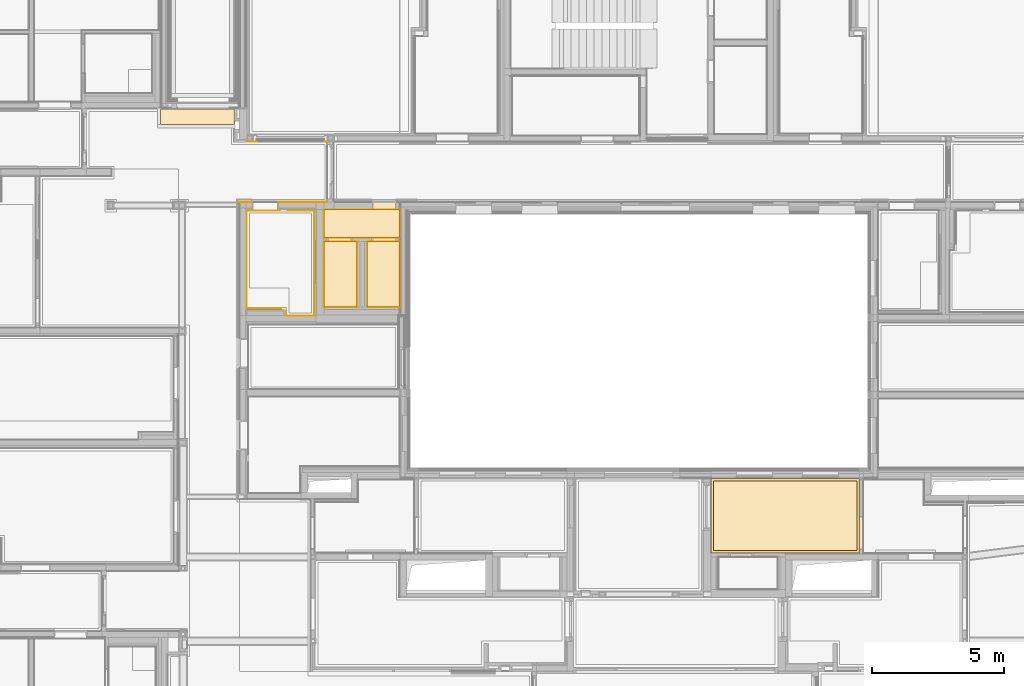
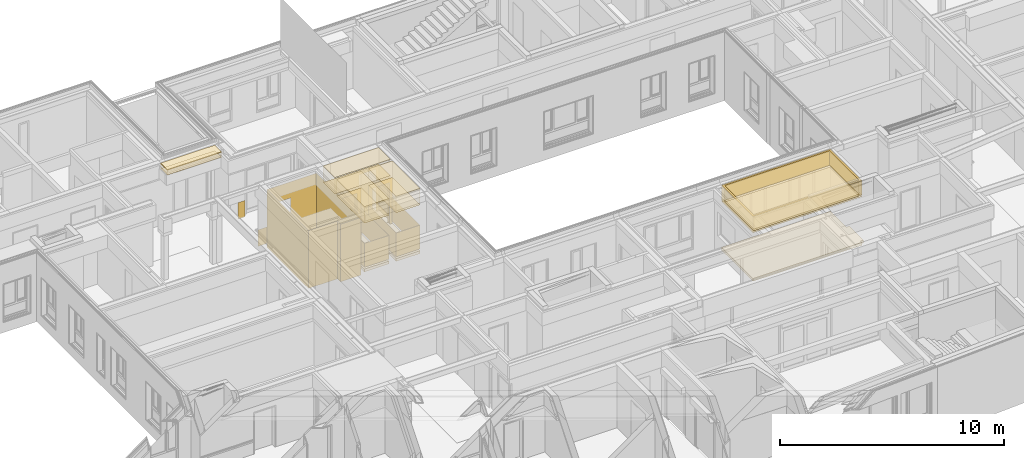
# One storey, part 173 of 222: 36 coverings.
"""IFC4 building model written with IfcOpenShell, lengths in metres."""

from ifc_helpers import new_model, entity, si_unit, converted_unit, derived_unit, frame, frame_2d, origin, origin_with_axes, place, context, subcontext, project, spatial, polyline, rectangle, outline, extrude, material, layer, layer_set, layer_usage, element, save


model = new_model("IFC4")

# Units and contexts
model_context = context("Model", 3, precision=1e-05, world=origin())
body_context = subcontext(model_context, "Body", "Model", "MODEL_VIEW")
ifc_project = project(units=[si_unit("LENGTHUNIT", "METRE"), si_unit("AREAUNIT", "SQUARE_METRE"), si_unit("VOLUMEUNIT", "CUBIC_METRE"), si_unit("MASSUNIT", "GRAM", prefix="KILO"), converted_unit("PLANEANGLEUNIT", "DEGREE", entity("IfcPlaneAngleMeasure", 0.0174532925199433), si_unit("PLANEANGLEUNIT", "RADIAN"), dimensions=[0, 0, 0, 0, 0, 0, 0]), derived_unit("THERMALTRANSMITTANCEUNIT", [(si_unit("POWERUNIT", "WATT"), 1), (si_unit("THERMODYNAMICTEMPERATUREUNIT", "KELVIN"), -1), (si_unit("LENGTHUNIT", "METRE"), -2)]), derived_unit("VOLUMETRICFLOWRATEUNIT", [(si_unit("LENGTHUNIT", "METRE"), 3), (converted_unit("TIMEUNIT", "hour", entity("IfcTimeMeasure", 3600.0), si_unit("TIMEUNIT", "SECOND"), dimensions=[0, 0, 1, 0, 0, 0, 0]), -1), (si_unit("LENGTHUNIT", "METRE"), -1)])], contexts=[model_context])

# Site, building, storey, space
site_placement = place(None, origin())
site = spatial("IfcSite", under=ifc_project, at=site_placement, Name="Psychiatrie Neubau Wunstorf", CompositionType="ELEMENT")
building_placement = place(site_placement, origin())
building = spatial("IfcBuilding", under=site, at=building_placement, Name="Neubau H2 Stationsgebäude", CompositionType="ELEMENT")
storey_placement = place(building_placement, frame((0.0, 0.0, 3.6)))
storey = spatial("IfcBuildingStorey", under=building, at=storey_placement, Name="H2 Ebene +1", CompositionType="ELEMENT", Elevation=3.6)
space_1_placement = place(storey_placement, frame((32.083, 0.550000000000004, 0.0)))
space_1 = spatial("IfcSpace", under=storey, at=space_1_placement, Name="WUN-H2-E01-F03", CompositionType="ELEMENT")

# Coverings
ifc_material_1 = material(Name="84")
ifc_layer_1 = layer(ifc_material_1, 0.001)
ifc_layer_set_1 = layer_set([ifc_layer_1])
ifc_layer_usage_1 = layer_usage(ifc_layer_set_1, "AXIS3", "POSITIVE", 0.0)
covering_1_placement = place(space_1_placement, frame((6.08599999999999, 22.3139977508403, 0.1)))
element("IfcCovering", 1, at=covering_1_placement, inside=space_1, material=ifc_layer_usage_1, Name="Acrovyn", PredefinedType="CLADDING", context=body_context, shape_type="SweptSolid", body=[
    extrude(rectangle(XDim=0.9, YDim=0.198000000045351, at=frame_2d((0.0990000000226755, 0.45), x_axis=(0.0, 1.0))), frame((0.198, 4.23770885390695e-06, 0.9), z_axis=(2.14025699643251e-05, -0.999999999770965, 0.0), x_axis=(-0.999999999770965, -2.14025699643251e-05, 0.0)), (0.0, 0.0, 1.0), 0.001),
    extrude(rectangle(XDim=0.9, YDim=0.163250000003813, at=frame_2d((0.0816250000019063, 0.45), x_axis=(0.0, 1.0))), frame((0.361250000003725, 4.0683012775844e-06, 0.9), z_axis=(-1.03771871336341e-06, -0.999999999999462, 0.0), x_axis=(-0.999999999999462, 1.03771871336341e-06, 0.0)), (0.0, 0.0, 1.0), 0.001),
    extrude(rectangle(XDim=0.127749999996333, YDim=0.9, at=frame_2d((0.0638749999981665, -0.45), x_axis=(1.0, 0.0))), frame((3.03899999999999, 1.28954996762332e-06, 0.0), z_axis=(-1.03771871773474e-06, -0.999999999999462, 0.0), x_axis=(-0.999999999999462, 1.03771871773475e-06, 0.0)), (0.0, 0.0, 1.0), 0.001),
])
ifc_material_2 = material(Name="84")
ifc_layer_2 = layer(ifc_material_2, 0.001)
ifc_layer_set_2 = layer_set([ifc_layer_2])
ifc_layer_usage_2 = layer_usage(ifc_layer_set_2, "AXIS3", "POSITIVE", 0.0)
covering_2_placement = place(space_1_placement, frame((5.79949999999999, 20.0359975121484, 0.1)))
element("IfcCovering", 2, at=covering_2_placement, inside=space_1, material=ifc_layer_usage_2, Name="Acrovyn", PredefinedType="CLADDING", context=body_context, shape_type="SweptSolid", body=[
    extrude(rectangle(XDim=0.467500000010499, YDim=0.9, at=frame_2d((0.233750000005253, -0.45), x_axis=(1.0, 9.72721606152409e-16))), frame((0.0, 5.14820669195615e-07, 0.0), z_axis=(1.10122068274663e-06, 0.999999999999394, -4.45205946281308e-21), x_axis=(0.999999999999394, -1.10122068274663e-06, 0.0)), (0.0, 0.0, 1.0), 0.001),
    extrude(rectangle(XDim=0.9, YDim=1.8479999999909, at=frame_2d((0.923999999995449, 0.45), x_axis=(0.0, 1.0))), frame((1.47750000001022, -1.1122328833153e-06, 0.9), z_axis=(1.1012206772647e-06, 0.999999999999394, 0.0), x_axis=(0.999999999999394, -1.1012206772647e-06, 0.0)), (0.0, 0.0, 1.0), 0.001),
])
ifc_material_3 = material()
ifc_layer_3 = layer(ifc_material_3, 0.036)
ifc_layer_set_3 = layer_set([ifc_layer_3])
ifc_layer_usage_3 = layer_usage(ifc_layer_set_3, "AXIS3", "POSITIVE", 0.0)
covering_3_placement = place(space_1_placement, frame((2.80599999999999, 22.965, 3.55)))
element("IfcCovering", 3, at=covering_3_placement, inside=space_1, material=ifc_layer_usage_3, Name="Gipsfaserplatten 2-lagig (BSK)", PredefinedType="CEILING", context=body_context, shape_type="SweptSolid", body=[
    extrude(rectangle(XDim=0.5990036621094, YDim=2.78999999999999, at=frame_2d((-1.39499999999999, 0.2995018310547), x_axis=(0.0, 1.0))), frame((2.78999999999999, 0.5990036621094, 0.0), z_axis=(0.0, 0.0, -1.0), x_axis=(1.0, 0.0, 0.0)), (0.0, 0.0, 1.0), 0.036),
])
ifc_material_4 = material(Name="Installationshöhe")
ifc_layer_4 = layer(ifc_material_4, 0.164)
ifc_layer_set_4 = layer_set([ifc_layer_4])
ifc_layer_usage_4 = layer_usage(ifc_layer_set_4, "AXIS3", "POSITIVE", 0.0)
covering_4_placement = place(space_1_placement, frame((2.80599999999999, 22.965, 3.514)))
element("IfcCovering", 4, at=covering_4_placement, inside=space_1, material=ifc_layer_usage_4, Name="Gipsfaserplatten 2-lagig (BSK)", PredefinedType="CEILING", context=body_context, shape_type="SweptSolid", body=[
    extrude(rectangle(XDim=0.5990036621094, YDim=2.78999999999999, at=frame_2d((-1.39499999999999, 0.2995018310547), x_axis=(0.0, 1.0))), frame((2.78999999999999, 0.5990036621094, 0.0), z_axis=(0.0, 0.0, -1.0), x_axis=(1.0, 0.0, 0.0)), (0.0, 0.0, 1.0), 0.164),
])
ifc_material_5 = material(Name="A1")
ifc_layer_5 = layer(ifc_material_5, 0.1)
ifc_layer_set_5 = layer_set([ifc_layer_5])
ifc_layer_usage_5 = layer_usage(ifc_layer_set_5, "AXIS3", "POSITIVE", 0.0)
covering_5_placement = place(space_1_placement, frame((2.80599999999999, 22.965, 3.35)))
element("IfcCovering", 5, at=covering_5_placement, inside=space_1, material=ifc_layer_usage_5, Name="Gipsfaserplatten 2-lagig (BSK)", PredefinedType="CEILING", context=body_context, shape_type="SweptSolid", body=[
    extrude(rectangle(XDim=0.5990036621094, YDim=2.78999999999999, at=frame_2d((-1.39499999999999, 0.2995018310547), x_axis=(0.0, 1.0))), frame((2.78999999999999, 0.5990036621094, 0.0), z_axis=(0.0, 0.0, -1.0), x_axis=(1.0, 0.0, 0.0)), (0.0, 0.0, 1.0), 0.1),
])
ifc_material_6 = material(Name="D1")
ifc_layer_6 = layer(ifc_material_6, 0.001)
ifc_layer_set_6 = layer_set([ifc_layer_6])
ifc_layer_usage_6 = layer_usage(ifc_layer_set_6, "AXIS3", "POSITIVE", 0.0)
covering_6_placement = place(space_1_placement, frame((2.80599999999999, 22.965, 3.25)))
element("IfcCovering", 6, at=covering_6_placement, inside=space_1, material=ifc_layer_usage_6, Name="Gipsfaserplatten 2-lagig (BSK)", PredefinedType="CEILING", context=body_context, shape_type="SweptSolid", body=[
    extrude(rectangle(XDim=0.5990036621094, YDim=2.78999999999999, at=frame_2d((-1.39499999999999, 0.2995018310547), x_axis=(0.0, 1.0))), frame((2.78999999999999, 0.5990036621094, 0.0), z_axis=(0.0, 0.0, -1.0), x_axis=(1.0, 0.0, 0.0)), (0.0, 0.0, 1.0), 0.001),
])

# Space
space_2_placement = place(storey_placement, frame((41.0690000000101, 16.6105060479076, 0.0)))
space_2 = spatial("IfcSpace", under=storey, at=space_2_placement, Name="WUN-H2-E01-052b", CompositionType="ELEMENT")

# Coverings
ifc_material_7 = material(Name="Fl1")
ifc_layer_7 = layer(ifc_material_7, 0.15)
ifc_layer_set_7 = layer_set([ifc_layer_7])
ifc_layer_usage_7 = layer_usage(ifc_layer_set_7, "AXIS3", "POSITIVE", 0.0)
covering_7_placement = place(space_2_placement, origin())
element("IfcCovering", 7, at=covering_7_placement, inside=space_2, material=ifc_layer_usage_7, Name="Fliesen", PredefinedType="FLOORING", context=body_context, shape_type="SweptSolid", body=[
    extrude(rectangle(XDim=0.149999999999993, YDim=0.885, at=frame_2d((0.442500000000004, -0.0749999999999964), x_axis=(4.85063840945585e-14, -1.0))), frame((0.149999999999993, 2.62449999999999, 0.0), z_axis=(0.0, 0.0, 1.0), x_axis=(1.0, 0.0, 0.0)), (0.0, 0.0, 1.0), 0.15),
    extrude(rectangle(XDim=1.26350000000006, YDim=2.47450000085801, at=frame_2d((-0.631750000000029, -1.23725000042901), x_axis=(-1.0, 0.0))), frame((1.26350000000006, 2.47450000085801, 0.0), z_axis=(0.0, 0.0, 1.0), x_axis=(1.0, 0.0, 0.0)), (0.0, 0.0, 1.0), 0.15),
])
ifc_material_8 = material()
ifc_layer_8 = layer(ifc_material_8, 0.036)
ifc_layer_set_8 = layer_set([ifc_layer_8])
ifc_layer_usage_8 = layer_usage(ifc_layer_set_8, "AXIS3", "POSITIVE", 0.0)
covering_8_placement = place(space_2_placement, frame((0.0, 0.0, 3.55)))
element("IfcCovering", 8, at=covering_8_placement, inside=space_2, material=ifc_layer_usage_8, Name="Gipsfaserplatten 2-lagig (BSK)", PredefinedType="CEILING", context=body_context, shape_type="SweptSolid", body=[
    extrude(rectangle(XDim=1.26350000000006, YDim=2.47450000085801, at=frame_2d((0.631750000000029, 1.23725000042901), x_axis=(1.0, 0.0))), frame((0.0, 2.47450000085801, 0.0), z_axis=(0.0, 0.0, -1.0), x_axis=(1.0, 0.0, 0.0)), (0.0, 0.0, 1.0), 0.036),
])
ifc_material_9 = material(Name="Installationshöhe")
ifc_layer_9 = layer(ifc_material_9, 0.764)
ifc_layer_set_9 = layer_set([ifc_layer_9])
ifc_layer_usage_9 = layer_usage(ifc_layer_set_9, "AXIS3", "POSITIVE", 0.0)
covering_9_placement = place(space_2_placement, frame((0.0, 0.0, 3.514)))
element("IfcCovering", 9, at=covering_9_placement, inside=space_2, material=ifc_layer_usage_9, Name="Gipsfaserplatten 2-lagig (BSK)", PredefinedType="CEILING", context=body_context, shape_type="SweptSolid", body=[
    extrude(rectangle(XDim=1.26350000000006, YDim=2.47450000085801, at=frame_2d((0.631750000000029, 1.23725000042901), x_axis=(1.0, 0.0))), frame((0.0, 2.47450000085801, 0.0), z_axis=(0.0, 0.0, -1.0), x_axis=(1.0, 0.0, 0.0)), (0.0, 0.0, 1.0), 0.764),
])
ifc_material_10 = material(Name="B")
ifc_layer_10 = layer(ifc_material_10, 0.1)
ifc_layer_set_10 = layer_set([ifc_layer_10])
ifc_layer_usage_10 = layer_usage(ifc_layer_set_10, "AXIS3", "POSITIVE", 0.0)
covering_10_placement = place(space_2_placement, frame((0.0, 0.0, 2.75)))
element("IfcCovering", 10, at=covering_10_placement, inside=space_2, material=ifc_layer_usage_10, Name="Gipskarton, imprägniert", PredefinedType="CEILING", context=body_context, shape_type="SweptSolid", body=[
    extrude(rectangle(XDim=1.26350000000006, YDim=2.47450000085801, at=frame_2d((0.631750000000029, 1.23725000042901), x_axis=(1.0, 0.0))), frame((0.0, 2.47450000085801, 0.0), z_axis=(0.0, 0.0, -1.0), x_axis=(1.0, 0.0, 0.0)), (0.0, 0.0, 1.0), 0.1),
])
ifc_material_11 = material(Name="D1")
ifc_layer_11 = layer(ifc_material_11, 0.001)
ifc_layer_set_11 = layer_set([ifc_layer_11])
ifc_layer_usage_11 = layer_usage(ifc_layer_set_11, "AXIS3", "POSITIVE", 0.0)
covering_11_placement = place(space_2_placement, frame((0.0, 0.0, 2.65)))
element("IfcCovering", 11, at=covering_11_placement, inside=space_2, material=ifc_layer_usage_11, Name="Gipsfaserplatten 2-lagig (BSK)", PredefinedType="CEILING", context=body_context, shape_type="SweptSolid", body=[
    extrude(rectangle(XDim=1.26350000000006, YDim=2.47450000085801, at=frame_2d((0.631750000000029, 1.23725000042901), x_axis=(1.0, 0.0))), frame((0.0, 2.47450000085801, 0.0), z_axis=(0.0, 0.0, -1.0), x_axis=(1.0, 0.0, 0.0)), (0.0, 0.0, 1.0), 0.001),
])
ifc_material_12 = material(Name="65")
ifc_layer_12 = layer(ifc_material_12, 0.01)
ifc_layer_set_12 = layer_set([ifc_layer_12])
ifc_layer_usage_12 = layer_usage(ifc_layer_set_12, "AXIS3", "POSITIVE", 0.0)
covering_12_placement = place(space_2_placement, frame((0.0, 0.0, 0.25)))
element("IfcCovering", 12, at=covering_12_placement, inside=space_2, material=ifc_layer_usage_12, Name="a-sh Wandbelag", PredefinedType="CLADDING", context=body_context, shape_type="SweptSolid", body=[
    extrude(rectangle(XDim=2.4745, YDim=1.3, at=frame_2d((1.23725, -0.65), x_axis=(1.0, 0.0))), frame((0.0, 2.4745, 0.0), z_axis=(1.0, 0.0, 0.0), x_axis=(0.0, -1.0, 0.0)), (0.0, 0.0, 1.0), 0.01),
    extrude(rectangle(XDim=2.4745, YDim=1.3, at=frame_2d((1.23725, -0.65), x_axis=(1.0, 0.0))), frame((1.26350000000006, 0.0, 0.0), z_axis=(-1.0, 0.0, 0.0), x_axis=(0.0, 1.0, 0.0)), (0.0, 0.0, 1.0), 0.01),
    extrude(rectangle(XDim=1.26350000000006, YDim=1.3, at=frame_2d((0.631750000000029, -0.65), x_axis=(1.0, 0.0))), frame((0.0, 0.0, 0.0), z_axis=(0.0, 1.0, 0.0), x_axis=(1.0, 0.0, 0.0)), (0.0, 0.0, 1.0), 0.01),
])
ifc_material_13 = material(Name="50")
ifc_layer_13 = layer(ifc_material_13, 0.001)
ifc_layer_set_13 = layer_set([ifc_layer_13])
ifc_layer_usage_13 = layer_usage(ifc_layer_set_13, "AXIS3", "POSITIVE", 0.0)
covering_13_placement = place(space_2_placement, frame((0.0, 2.4745, 0.15)))
element("IfcCovering", 13, at=covering_13_placement, inside=space_2, material=ifc_layer_usage_13, PredefinedType="CLADDING", context=body_context, shape_type="SweptSolid", body=[
    extrude(outline(polyline([(1.26350000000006, 2.5), (1.26350000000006, 0.0), (0.0, 0.0), (0.0, 2.5), (0.228500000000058, 2.5), (0.228500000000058, 0.24), (1.11350000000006, 0.24), (1.11350000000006, 2.5), (1.26350000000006, 2.5)])), frame((1.26350000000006, 0.0, 2.5), z_axis=(0.0, -1.0, -1.38711394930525e-10), x_axis=(-1.0, 0.0, 0.0)), (0.0, 0.0, 1.0), 0.001),
])

# Space
space_3_placement = place(storey_placement, frame((42.7075000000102, 16.6105060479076, 0.0)))
space_3 = spatial("IfcSpace", under=storey, at=space_3_placement, Name="WUN-H2-E01-052a", CompositionType="ELEMENT")

# Coverings
ifc_material_14 = material(Name="Fl1")
ifc_layer_14 = layer(ifc_material_14, 0.15)
ifc_layer_set_14 = layer_set([ifc_layer_14])
ifc_layer_usage_14 = layer_usage(ifc_layer_set_14, "AXIS3", "POSITIVE", 0.0)
covering_14_placement = place(space_3_placement, origin())
element("IfcCovering", 14, at=covering_14_placement, inside=space_3, material=ifc_layer_usage_14, Name="Fliesen", PredefinedType="FLOORING", context=body_context, shape_type="SweptSolid", body=[
    extrude(rectangle(XDim=0.149999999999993, YDim=0.885, at=frame_2d((0.442500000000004, -0.0749999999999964), x_axis=(4.85063840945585e-14, -1.0))), frame((0.207499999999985, 2.62449999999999, 0.0), z_axis=(0.0, 0.0, 1.0), x_axis=(1.0, 0.0, 0.0)), (0.0, 0.0, 1.0), 0.15),
    extrude(rectangle(XDim=2.47450000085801, YDim=1.23150000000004, at=frame_2d((0.615750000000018, -1.23725000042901), x_axis=(0.0, -1.0))), frame((0.0, 2.47450000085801, 0.0), z_axis=(0.0, 0.0, 1.0), x_axis=(1.0, 0.0, 0.0)), (0.0, 0.0, 1.0), 0.15),
])
ifc_material_15 = material()
ifc_layer_15 = layer(ifc_material_15, 0.036)
ifc_layer_set_15 = layer_set([ifc_layer_15])
ifc_layer_usage_15 = layer_usage(ifc_layer_set_15, "AXIS3", "POSITIVE", 0.0)
covering_15_placement = place(space_3_placement, frame((0.0, 0.0, 3.55)))
element("IfcCovering", 15, at=covering_15_placement, inside=space_3, material=ifc_layer_usage_15, Name="Gipsfaserplatten 2-lagig (BSK)", PredefinedType="CEILING", context=body_context, shape_type="SweptSolid", body=[
    extrude(rectangle(XDim=2.47450000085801, YDim=1.23150000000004, at=frame_2d((0.615750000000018, -1.23725), x_axis=(0.0, -1.0))), frame((0.0, 0.0, 0.0), z_axis=(0.0, 0.0, -1.0), x_axis=(1.0, 0.0, 0.0)), (0.0, 0.0, 1.0), 0.036),
])
ifc_material_16 = material(Name="Installationshöhe")
ifc_layer_16 = layer(ifc_material_16, 0.764)
ifc_layer_set_16 = layer_set([ifc_layer_16])
ifc_layer_usage_16 = layer_usage(ifc_layer_set_16, "AXIS3", "POSITIVE", 0.0)
covering_16_placement = place(space_3_placement, frame((0.0, 0.0, 3.514)))
element("IfcCovering", 16, at=covering_16_placement, inside=space_3, material=ifc_layer_usage_16, Name="Gipsfaserplatten 2-lagig (BSK)", PredefinedType="CEILING", context=body_context, shape_type="SweptSolid", body=[
    extrude(rectangle(XDim=2.47450000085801, YDim=1.23150000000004, at=frame_2d((0.615750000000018, -1.23725), x_axis=(0.0, -1.0))), frame((0.0, 0.0, 0.0), z_axis=(0.0, 0.0, -1.0), x_axis=(1.0, 0.0, 0.0)), (0.0, 0.0, 1.0), 0.764),
])
ifc_material_17 = material(Name="B")
ifc_layer_17 = layer(ifc_material_17, 0.1)
ifc_layer_set_17 = layer_set([ifc_layer_17])
ifc_layer_usage_17 = layer_usage(ifc_layer_set_17, "AXIS3", "POSITIVE", 0.0)
covering_17_placement = place(space_3_placement, frame((0.0, 0.0, 2.75)))
element("IfcCovering", 17, at=covering_17_placement, inside=space_3, material=ifc_layer_usage_17, Name="Gipskarton, imprägniert", PredefinedType="CEILING", context=body_context, shape_type="SweptSolid", body=[
    extrude(rectangle(XDim=2.47450000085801, YDim=1.23150000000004, at=frame_2d((0.615750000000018, -1.23725), x_axis=(0.0, -1.0))), frame((0.0, 0.0, 0.0), z_axis=(0.0, 0.0, -1.0), x_axis=(1.0, 0.0, 0.0)), (0.0, 0.0, 1.0), 0.1),
])
ifc_material_18 = material(Name="D1")
ifc_layer_18 = layer(ifc_material_18, 0.001)
ifc_layer_set_18 = layer_set([ifc_layer_18])
ifc_layer_usage_18 = layer_usage(ifc_layer_set_18, "AXIS3", "POSITIVE", 0.0)
covering_18_placement = place(space_3_placement, frame((0.0, 0.0, 2.65)))
element("IfcCovering", 18, at=covering_18_placement, inside=space_3, material=ifc_layer_usage_18, Name="Gipsfaserplatten 2-lagig (BSK)", PredefinedType="CEILING", context=body_context, shape_type="SweptSolid", body=[
    extrude(rectangle(XDim=2.47450000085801, YDim=1.23150000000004, at=frame_2d((0.615750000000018, -1.23725), x_axis=(0.0, -1.0))), frame((0.0, 0.0, 0.0), z_axis=(0.0, 0.0, -1.0), x_axis=(1.0, 0.0, 0.0)), (0.0, 0.0, 1.0), 0.001),
])
ifc_material_19 = material(Name="65")
ifc_layer_19 = layer(ifc_material_19, 0.01)
ifc_layer_set_19 = layer_set([ifc_layer_19])
ifc_layer_usage_19 = layer_usage(ifc_layer_set_19, "AXIS3", "POSITIVE", 0.0)
covering_19_placement = place(space_3_placement, frame((0.0, 0.0, 0.25)))
element("IfcCovering", 19, at=covering_19_placement, inside=space_3, material=ifc_layer_usage_19, Name="a-sh Wandbelag", PredefinedType="CLADDING", context=body_context, shape_type="SweptSolid", body=[
    extrude(rectangle(XDim=2.47450000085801, YDim=1.3, at=frame_2d((1.23725000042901, -0.65), x_axis=(1.0, 0.0))), frame((0.0, 2.47450000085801, 0.0), z_axis=(1.0, 0.0, 0.0), x_axis=(0.0, -1.0, 0.0)), (0.0, 0.0, 1.0), 0.01),
    extrude(rectangle(XDim=2.4745, YDim=1.3, at=frame_2d((1.23725, -0.65), x_axis=(1.0, 0.0))), frame((1.23150000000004, 0.0, 0.0), z_axis=(-1.0, 0.0, 0.0), x_axis=(0.0, 1.0, 0.0)), (0.0, 0.0, 1.0), 0.01),
    extrude(rectangle(XDim=1.23150000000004, YDim=1.3, at=frame_2d((0.615750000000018, -0.65), x_axis=(1.0, 0.0))), frame((0.0, 0.0, 0.0), z_axis=(0.0, 1.0, 0.0), x_axis=(1.0, 0.0, 0.0)), (0.0, 0.0, 1.0), 0.01),
])
ifc_material_20 = material(Name="50")
ifc_layer_20 = layer(ifc_material_20, 0.001)
ifc_layer_set_20 = layer_set([ifc_layer_20])
ifc_layer_usage_20 = layer_usage(ifc_layer_set_20, "AXIS3", "POSITIVE", 0.0)
covering_20_placement = place(space_3_placement, frame((0.0, 2.4745, 0.15)))
element("IfcCovering", 20, at=covering_20_placement, inside=space_3, material=ifc_layer_usage_20, PredefinedType="CLADDING", context=body_context, shape_type="SweptSolid", body=[
    extrude(outline(polyline([(1.23150000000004, 2.5), (1.23150000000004, 0.0), (0.0, 0.0), (0.0, 2.5), (0.139000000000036, 2.5), (0.139000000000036, 0.24), (1.02400000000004, 0.24), (1.02400000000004, 2.5), (1.23150000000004, 2.5)])), frame((1.23150000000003, 0.0, 2.5), z_axis=(0.0, -1.0, 0.0), x_axis=(-1.0, 0.0, 0.0)), (0.0, 0.0, 1.0), 0.001),
])

# Space
space_4_placement = place(storey_placement, frame((38.1545, 16.2820060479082, 0.0)))
space_4 = spatial("IfcSpace", under=storey, at=space_4_placement, Name="WUN-H2-E01-009", CompositionType="ELEMENT")

# Covering
ifc_material_21 = material(Name="49")
ifc_layer_21 = layer(ifc_material_21, 0.001)
ifc_layer_set_21 = layer_set([ifc_layer_21])
ifc_layer_usage_21 = layer_usage(ifc_layer_set_21, "AXIS3", "POSITIVE", 0.0)
covering_21_placement = place(space_4_placement, frame((0.0, 0.0, 0.15)))
element("IfcCovering", 21, at=covering_21_placement, inside=space_4, material=ifc_layer_usage_21, PredefinedType="CLADDING", context=body_context, shape_type="SweptSolid", body=[
    extrude(rectangle(XDim=3.98149197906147, YDim=3.15, at=frame_2d((1.99074598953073, -1.575), x_axis=(1.0, 0.0))), frame((2.54950000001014, 0.000499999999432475, 0.0), z_axis=(-1.0, 0.0, 0.0), x_axis=(0.0, 1.0, 0.0)), (0.0, 0.0, 1.0), 0.001),
    extrude(outline(polyline([(0.0, 3.15), (1.34399999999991, 3.15), (1.34399999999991, 0.89), (2.35399999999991, 0.89), (2.35399999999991, 3.15), (2.54950000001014, 3.15), (2.54950000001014, 0.0), (0.0, 0.0), (0.0, 3.15)])), frame((2.54950000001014, 3.9819919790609, 3.15), z_axis=(0.0, -1.0, 0.0), x_axis=(-1.0, 0.0, 0.0)), (0.0, 0.0, 1.0), 0.001),
    extrude(rectangle(XDim=3.70649197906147, YDim=3.15, at=frame_2d((1.85324598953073, -1.575), x_axis=(1.0, 0.0))), frame((0.0, 3.9819919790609, 0.0), z_axis=(1.0, 0.0, 0.0), x_axis=(0.0, -1.0, 0.0)), (0.0, 0.0, 1.0), 0.001),
    extrude(rectangle(XDim=1.49950008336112, YDim=3.15, at=frame_2d((0.74975004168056, -1.575), x_axis=(1.0, 0.0))), frame((0.0, 0.275499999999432, 0.0), z_axis=(0.000333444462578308, 0.999999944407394, 0.0), x_axis=(0.999999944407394, -0.000333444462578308, 0.0)), (0.0, 0.0, 1.0), 0.001),
    extrude(rectangle(XDim=0.275, YDim=3.15, at=frame_2d((0.1375, -1.575), x_axis=(1.0, 0.0))), frame((1.4995, 0.275, 0.0), z_axis=(1.0, 0.0, 0.0), x_axis=(0.0, -1.0, 0.0)), (0.0, 0.0, 1.0), 0.001),
    extrude(rectangle(XDim=1.05000011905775, YDim=3.15, at=frame_2d((0.525000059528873, -1.575), x_axis=(1.0, 0.0))), frame((1.4995, 0.0, 0.0), z_axis=(-0.000476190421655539, 0.999999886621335, 0.0), x_axis=(0.999999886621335, 0.000476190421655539, 0.0)), (0.0, 0.0, 1.0), 0.001),
])

# Space
space_5_placement = place(storey_placement, frame((55.7325000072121, 7.29999969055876, 0.0)))
space_5 = spatial("IfcSpace", under=storey, at=space_5_placement, Name="WUN-H2-E01-064a", CompositionType="ELEMENT")

# Coverings
ifc_material_22 = material()
ifc_layer_22 = layer(ifc_material_22, 0.036)
ifc_layer_set_22 = layer_set([ifc_layer_22])
ifc_layer_usage_22 = layer_usage(ifc_layer_set_22, "AXIS3", "POSITIVE", 0.0)
covering_22_placement = place(space_5_placement, frame((0.1, 0.100000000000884, 3.55)))
element("IfcCovering", 22, at=covering_22_placement, inside=space_5, material=ifc_layer_usage_22, Name="Gipsfaserplatten 2-lagig (BSK)", PredefinedType="CEILING", context=body_context, shape_type="SweptSolid", body=[
    extrude(rectangle(XDim=5.41749999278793, YDim=2.614, at=frame_2d((2.70874999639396, 1.307), x_axis=(1.0, 0.0))), frame((0.0, 2.614, 0.0), z_axis=(0.0, 0.0, -1.0), x_axis=(1.0, 0.0, 0.0)), (0.0, 0.0, 1.0), 0.036),
])
ifc_material_23 = material(Name="Installationshöhe")
ifc_layer_23 = layer(ifc_material_23, 0.764)
ifc_layer_set_23 = layer_set([ifc_layer_23])
ifc_layer_usage_23 = layer_usage(ifc_layer_set_23, "AXIS3", "POSITIVE", 0.0)
covering_23_placement = place(space_5_placement, frame((0.1, 0.100000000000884, 3.514)))
element("IfcCovering", 23, at=covering_23_placement, inside=space_5, material=ifc_layer_usage_23, Name="Gipsfaserplatten 2-lagig (BSK)", PredefinedType="CEILING", context=body_context, shape_type="SweptSolid", body=[
    extrude(rectangle(XDim=5.41749999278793, YDim=2.614, at=frame_2d((2.70874999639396, 1.307), x_axis=(1.0, 0.0))), frame((0.0, 2.614, 0.0), z_axis=(0.0, 0.0, -1.0), x_axis=(1.0, 0.0, 0.0)), (0.0, 0.0, 1.0), 0.764),
])
ifc_material_24 = material(Name="H7b")
ifc_layer_24 = layer(ifc_material_24, 0.1)
ifc_layer_set_24 = layer_set([ifc_layer_24])
ifc_layer_usage_24 = layer_usage(ifc_layer_set_24, "AXIS3", "POSITIVE", 0.0)
covering_24_placement = place(space_5_placement, frame((0.1, 0.100000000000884, 2.75)))
element("IfcCovering", 24, at=covering_24_placement, inside=space_5, material=ifc_layer_usage_24, Name="Kühldecke gelocht", PredefinedType="CEILING", context=body_context, shape_type="SweptSolid", body=[
    extrude(rectangle(XDim=5.41749999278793, YDim=2.614, at=frame_2d((2.70874999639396, 1.307), x_axis=(1.0, 0.0))), frame((0.0, 2.614, 0.0), z_axis=(0.0, 0.0, -1.0), x_axis=(1.0, 0.0, 0.0)), (0.0, 0.0, 1.0), 0.1),
])
ifc_material_25 = material(Name="D1")
ifc_layer_25 = layer(ifc_material_25, 0.001)
ifc_layer_set_25 = layer_set([ifc_layer_25])
ifc_layer_usage_25 = layer_usage(ifc_layer_set_25, "AXIS3", "POSITIVE", 0.0)
covering_25_placement = place(space_5_placement, frame((0.1, 0.100000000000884, 2.65)))
element("IfcCovering", 25, at=covering_25_placement, inside=space_5, material=ifc_layer_usage_25, Name="Gipsfaserplatten 2-lagig (BSK)", PredefinedType="CEILING", context=body_context, shape_type="SweptSolid", body=[
    extrude(rectangle(XDim=5.41749999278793, YDim=2.614, at=frame_2d((2.70874999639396, 1.307), x_axis=(1.0, 0.0))), frame((0.0, 2.614, 0.0), z_axis=(0.0, 0.0, -1.0), x_axis=(1.0, 0.0, 0.0)), (0.0, 0.0, 1.0), 0.001),
])
ifc_material_26 = material()
ifc_layer_26 = layer(ifc_material_26, 0.036)
ifc_layer_set_26 = layer_set([ifc_layer_26])
ifc_layer_usage_26 = layer_usage(ifc_layer_set_26, "AXIS3", "POSITIVE", 0.0)
covering_26_placement = place(space_5_placement, frame((0.0, 0.0, 3.55)))
element("IfcCovering", 26, at=covering_26_placement, inside=space_5, material=ifc_layer_usage_26, Name="Gipsfaserplatten 2-lagig (BSK)", PredefinedType="CEILING", context=body_context, shape_type="SweptSolid", body=[
    extrude(outline(polyline([(5.61749999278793, 2.814), (0.0, 2.81400000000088), (0.0, 0.0), (5.61749999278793, 0.0), (5.61749999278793, 2.814)]), holes=[polyline([(0.1, 2.714), (5.51749999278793, 2.714), (5.51749999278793, 0.1), (0.1, 0.1), (0.1, 2.714)])]), frame((0.0, 2.81400000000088, 0.0), z_axis=(0.0, 0.0, -1.0), x_axis=(1.0, 0.0, 0.0)), (0.0, 0.0, 1.0), 0.036),
])
ifc_material_27 = material(Name="Installationshöhe")
ifc_layer_27 = layer(ifc_material_27, 0.764)
ifc_layer_set_27 = layer_set([ifc_layer_27])
ifc_layer_usage_27 = layer_usage(ifc_layer_set_27, "AXIS3", "POSITIVE", 0.0)
covering_27_placement = place(space_5_placement, frame((0.0, 0.0, 3.514)))
element("IfcCovering", 27, at=covering_27_placement, inside=space_5, material=ifc_layer_usage_27, Name="Gipsfaserplatten 2-lagig (BSK)", PredefinedType="CEILING", context=body_context, shape_type="SweptSolid", body=[
    extrude(outline(polyline([(5.61749999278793, 2.814), (0.0, 2.81400000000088), (0.0, 0.0), (5.61749999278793, 0.0), (5.61749999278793, 2.814)]), holes=[polyline([(0.1, 2.714), (5.51749999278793, 2.714), (5.51749999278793, 0.1), (0.1, 0.1), (0.1, 2.714)])]), frame((0.0, 2.81400000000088, 0.0), z_axis=(0.0, 0.0, -1.0), x_axis=(1.0, 0.0, 0.0)), (0.0, 0.0, 1.0), 0.764),
])
ifc_material_28 = material(Name="H7a")
ifc_layer_28 = layer(ifc_material_28, 0.1)
ifc_layer_set_28 = layer_set([ifc_layer_28])
ifc_layer_usage_28 = layer_usage(ifc_layer_set_28, "AXIS3", "POSITIVE", 0.0)
covering_28_placement = place(space_5_placement, frame((0.0, 0.0, 2.75)))
element("IfcCovering", 28, at=covering_28_placement, inside=space_5, material=ifc_layer_usage_28, Name="Kühldecke glatt", PredefinedType="CEILING", context=body_context, shape_type="SweptSolid", body=[
    extrude(outline(polyline([(5.61749999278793, 2.814), (0.0, 2.81400000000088), (0.0, 0.0), (5.61749999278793, 0.0), (5.61749999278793, 2.814)]), holes=[polyline([(0.1, 2.714), (5.51749999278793, 2.714), (5.51749999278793, 0.1), (0.1, 0.1), (0.1, 2.714)])]), frame((0.0, 2.81400000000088, 0.0), z_axis=(0.0, 0.0, -1.0), x_axis=(1.0, 0.0, 0.0)), (0.0, 0.0, 1.0), 0.1),
])
ifc_material_29 = material(Name="D1")
ifc_layer_29 = layer(ifc_material_29, 0.001)
ifc_layer_set_29 = layer_set([ifc_layer_29])
ifc_layer_usage_29 = layer_usage(ifc_layer_set_29, "AXIS3", "POSITIVE", 0.0)
covering_29_placement = place(space_5_placement, frame((0.0, 0.0, 2.65)))
element("IfcCovering", 29, at=covering_29_placement, inside=space_5, material=ifc_layer_usage_29, Name="Gipsfaserplatten 2-lagig (BSK)", PredefinedType="CEILING", context=body_context, shape_type="SweptSolid", body=[
    extrude(outline(polyline([(5.61749999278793, 2.814), (0.0, 2.81400000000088), (0.0, 0.0), (5.61749999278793, 0.0), (5.61749999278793, 2.814)]), holes=[polyline([(0.1, 2.714), (5.51749999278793, 2.714), (5.51749999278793, 0.1), (0.1, 0.1), (0.1, 2.714)])]), frame((0.0, 2.81400000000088, 0.0), z_axis=(0.0, 0.0, -1.0), x_axis=(1.0, 0.0, 0.0)), (0.0, 0.0, 1.0), 0.001),
])
ifc_material_30 = material(Name="Ku1")
ifc_layer_30 = layer(ifc_material_30, 0.15)
ifc_layer_set_30 = layer_set([ifc_layer_30])
ifc_layer_usage_30 = layer_usage(ifc_layer_set_30, "AXIS3", "POSITIVE", 0.0)
covering_30_placement = place(space_5_placement, origin())
element("IfcCovering", 30, at=covering_30_placement, inside=space_5, material=ifc_layer_usage_30, Name="PVC Bahnenware Holzoptik", PredefinedType="FLOORING", context=body_context, shape_type="SweptSolid", body=[
    extrude(rectangle(XDim=0.15, YDim=1.26, at=frame_2d((0.075, 0.63), x_axis=(1.0, 0.0))), frame((5.61749999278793, 0.125000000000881, 0.0), z_axis=(0.0, 0.0, 1.0), x_axis=(1.0, 0.0, 0.0)), (0.0, 0.0, 1.0), 0.15),
    extrude(rectangle(XDim=5.61749999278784, YDim=2.814, at=frame_2d((2.80874999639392, 1.40700000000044), x_axis=(1.0, 1.57370512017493e-13))), origin_with_axes(), (0.0, 0.0, 1.0), 0.15),
])

# Space
space_6_placement = place(storey_placement, frame((41.0690000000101, 19.2350060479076, 0.0)))
space_6 = spatial("IfcSpace", under=storey, at=space_6_placement, Name="WUN-H2-E01-052", CompositionType="ELEMENT")

# Coverings
ifc_material_31 = material(Name="Fl1")
ifc_layer_31 = layer(ifc_material_31, 0.15)
ifc_layer_set_31 = layer_set([ifc_layer_31])
ifc_layer_usage_31 = layer_usage(ifc_layer_set_31, "AXIS3", "POSITIVE", 0.0)
covering_31_placement = place(space_6_placement, origin())
element("IfcCovering", 31, at=covering_31_placement, inside=space_6, material=ifc_layer_usage_31, Name="Fliesen", PredefinedType="FLOORING", context=body_context, shape_type="SweptSolid", body=[
    extrude(rectangle(XDim=0.29, YDim=0.885, at=frame_2d((-0.4425, 0.145), x_axis=(0.0, 1.0))), frame((2.73100000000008, 1.06099197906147, 0.0), z_axis=(0.0, 0.0, 1.0), x_axis=(1.0, 0.0, 0.0)), (0.0, 0.0, 1.0), 0.15),
    extrude(rectangle(XDim=2.87000000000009, YDim=1.06099197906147, at=frame_2d((1.43500000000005, 0.530495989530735), x_axis=(1.0, 0.0))), origin_with_axes(), (0.0, 0.0, 1.0), 0.15),
])
ifc_material_32 = material()
ifc_layer_32 = layer(ifc_material_32, 0.036)
ifc_layer_set_32 = layer_set([ifc_layer_32])
ifc_layer_usage_32 = layer_usage(ifc_layer_set_32, "AXIS3", "POSITIVE", 0.0)
covering_32_placement = place(space_6_placement, frame((0.0, 0.0, 3.55)))
element("IfcCovering", 32, at=covering_32_placement, inside=space_6, material=ifc_layer_usage_32, Name="Gipsfaserplatten 2-lagig (BSK)", PredefinedType="CEILING", context=body_context, shape_type="SweptSolid", body=[
    extrude(rectangle(XDim=2.87000000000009, YDim=1.06099197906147, at=frame_2d((-1.43500000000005, -0.530495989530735), x_axis=(-1.0, 0.0))), frame((2.87000000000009, 0.0, 0.0), z_axis=(0.0, 0.0, -1.0), x_axis=(1.0, 0.0, 0.0)), (0.0, 0.0, 1.0), 0.036),
])
ifc_material_33 = material(Name="Installationshöhe")
ifc_layer_33 = layer(ifc_material_33, 0.764)
ifc_layer_set_33 = layer_set([ifc_layer_33])
ifc_layer_usage_33 = layer_usage(ifc_layer_set_33, "AXIS3", "POSITIVE", 0.0)
covering_33_placement = place(space_6_placement, frame((0.0, 0.0, 3.514)))
element("IfcCovering", 33, at=covering_33_placement, inside=space_6, material=ifc_layer_usage_33, Name="Gipsfaserplatten 2-lagig (BSK)", PredefinedType="CEILING", context=body_context, shape_type="SweptSolid", body=[
    extrude(rectangle(XDim=2.87000000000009, YDim=1.06099197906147, at=frame_2d((-1.43500000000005, -0.530495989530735), x_axis=(-1.0, 0.0))), frame((2.87000000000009, 0.0, 0.0), z_axis=(0.0, 0.0, -1.0), x_axis=(1.0, 0.0, 0.0)), (0.0, 0.0, 1.0), 0.764),
])
ifc_material_34 = material(Name="B")
ifc_layer_34 = layer(ifc_material_34, 0.1)
ifc_layer_set_34 = layer_set([ifc_layer_34])
ifc_layer_usage_34 = layer_usage(ifc_layer_set_34, "AXIS3", "POSITIVE", 0.0)
covering_34_placement = place(space_6_placement, frame((0.0, 0.0, 2.75)))
element("IfcCovering", 34, at=covering_34_placement, inside=space_6, material=ifc_layer_usage_34, Name="Gipskarton, imprägniert", PredefinedType="CEILING", context=body_context, shape_type="SweptSolid", body=[
    extrude(rectangle(XDim=2.87000000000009, YDim=1.06099197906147, at=frame_2d((-1.43500000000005, -0.530495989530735), x_axis=(-1.0, 0.0))), frame((2.87000000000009, 0.0, 0.0), z_axis=(0.0, 0.0, -1.0), x_axis=(1.0, 0.0, 0.0)), (0.0, 0.0, 1.0), 0.1),
])
ifc_material_35 = material(Name="D1")
ifc_layer_35 = layer(ifc_material_35, 0.001)
ifc_layer_set_35 = layer_set([ifc_layer_35])
ifc_layer_usage_35 = layer_usage(ifc_layer_set_35, "AXIS3", "POSITIVE", 0.0)
covering_35_placement = place(space_6_placement, frame((0.0, 0.0, 2.65)))
element("IfcCovering", 35, at=covering_35_placement, inside=space_6, material=ifc_layer_usage_35, Name="Gipsfaserplatten 2-lagig (BSK)", PredefinedType="CEILING", context=body_context, shape_type="SweptSolid", body=[
    extrude(rectangle(XDim=2.87000000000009, YDim=1.06099197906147, at=frame_2d((-1.43500000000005, -0.530495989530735), x_axis=(-1.0, 0.0))), frame((2.87000000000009, 0.0, 0.0), z_axis=(0.0, 0.0, -1.0), x_axis=(1.0, 0.0, 0.0)), (0.0, 0.0, 1.0), 0.001),
])
ifc_material_36 = material(Name="50")
ifc_layer_36 = layer(ifc_material_36, 0.001)
ifc_layer_set_36 = layer_set([ifc_layer_36])
ifc_layer_usage_36 = layer_usage(ifc_layer_set_36, "AXIS3", "POSITIVE", 0.0)
covering_36_placement = place(space_6_placement, frame((0.0, 0.0, 0.15)))
element("IfcCovering", 36, at=covering_36_placement, inside=space_6, material=ifc_layer_usage_36, PredefinedType="CLADDING", context=body_context, shape_type="SweptSolid", body=[
    extrude(outline(polyline([(0.0, 2.5), (0.139000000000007, 2.5), (0.139000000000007, 0.24), (1.02400000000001, 0.24), (1.02400000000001, 2.5), (2.87000000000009, 2.5), (2.87000000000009, 0.0), (0.0, 0.0), (0.0, 2.5)])), frame((2.87000000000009, 1.06099197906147, 2.5), z_axis=(2.68751627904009e-17, -1.0, 8.16892968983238e-16), x_axis=(-1.0, -2.68751627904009e-17, 0.0)), (0.0, 0.0, 1.0), 0.001),
    extrude(rectangle(XDim=1.06099197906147, YDim=2.5, at=frame_2d((0.530495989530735, -1.25), x_axis=(1.0, 0.0))), frame((0.0, 1.06099197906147, 0.0), z_axis=(1.0, 0.0, 0.0), x_axis=(0.0, -1.0, 0.0)), (0.0, 0.0, 1.0), 0.001),
    extrude(outline(polyline([(0.0, 2.5), (0.149999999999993, 2.5), (0.149999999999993, 0.24), (1.035, 0.24), (1.035, 2.5), (1.84600000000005, 2.5), (1.84600000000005, 0.24), (2.73100000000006, 0.24), (2.73100000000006, 2.5), (2.87000000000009, 2.5), (2.87000000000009, 0.0), (0.0, 0.0), (0.0, 2.5)])), frame((0.0, 0.0, 2.5), z_axis=(0.0, 1.0, 5.39518634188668e-16), x_axis=(1.0, 0.0, 0.0)), (0.0, 0.0, 1.0), 0.001),
    extrude(rectangle(XDim=1.06099197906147, YDim=2.5, at=frame_2d((0.530495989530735, -1.25), x_axis=(1.0, 0.0))), frame((2.87000000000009, 0.0, 0.0), z_axis=(-1.0, 0.0, 0.0), x_axis=(0.0, 1.0, 0.0)), (0.0, 0.0, 1.0), 0.001),
])

save(model, "model.ifc")
